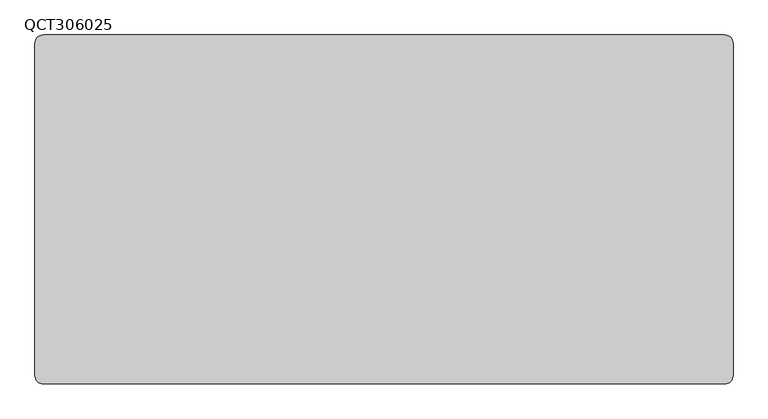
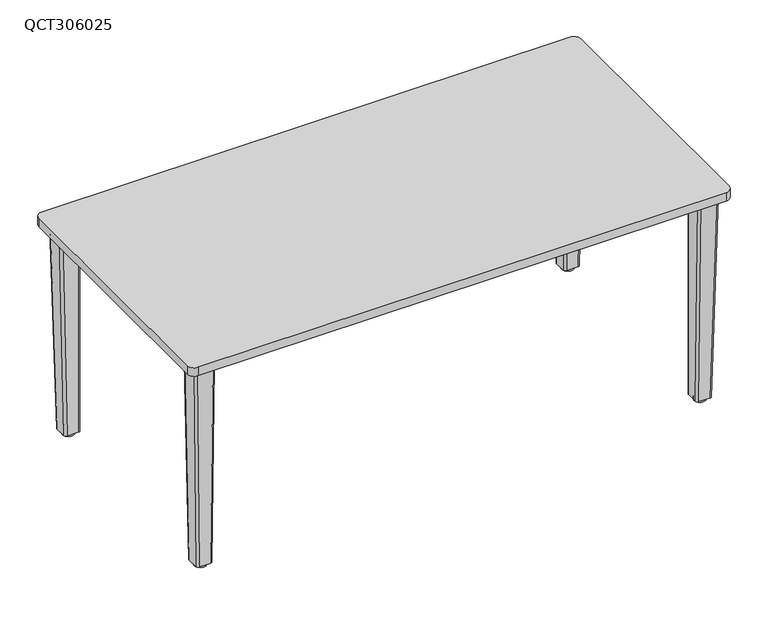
"""IFC4 building model written with IfcOpenShell, lengths in millimetres: furniture geometry, Leland-Quince-Table_Rectangle : QCT306025."""

from ifc_helpers import new_model, si_unit, point, frame, frame_2d, origin, origin_with_axes, place, context, project, spatial, polyline, circle_curve, trimmed, segment, composite_curve, outline, extrude, source, transform, mapped, element, save
from ifc_brep_helpers import plane_surface, cylinder_surface, extruded_surface, advanced_brep


def qct306025_694dcfb7(model_context):
    return source(origin(), model_context, "Body", "SolidModel", [
        advanced_brep(
        [(731.0299122, -299.2482078, 604.8487443), (686.5799122, -299.2482078, 604.8487443), (680.2299122, -305.5982078, 604.8487443), (680.2299122, -350.0482078, 604.8487443), (686.5799122, -356.3982078, 604.8487443), (731.0299122, -356.3982078, 604.8487443), (737.3799122, -350.0482078, 604.8487443), (737.3799122, -305.5982078, 604.8487443), (718.7392552, -299.2482078, 9.5377), (725.0892552, -305.5982078, 9.5377), (725.0892552, -337.7651364, 9.5377), (718.7392552, -344.1151364, 9.5377), (686.5799122, -344.1151364, 9.5377), (680.2299122, -337.7651364, 9.5377), (680.2299122, -305.5982078, 9.5377), (686.5799122, -299.2482078, 9.5377)],
        [
            (0, 1),
            (1, 2, circle_curve(frame((686.5799122, -305.5982078, 604.8487443), z_axis=(0.0, 0.0, 1.0), x_axis=(-1.0, 0.0, 0.0)), 6.35)),
            (2, 3),
            (3, 4, circle_curve(frame((686.5799122, -350.0482078, 604.8487443), z_axis=(0.0, 0.0, 1.0), x_axis=(-1.0, 0.0, 0.0)), 6.35)),
            (4, 5),
            (5, 6, circle_curve(frame((731.0299122, -350.0482078, 604.8487443), z_axis=(0.0, 0.0, 1.0), x_axis=(-1.0, 0.0, 0.0)), 6.35)),
            (6, 7),
            (7, 0, circle_curve(frame((731.0299122, -305.5982078, 604.8487443), z_axis=(0.0, 0.0, 1.0), x_axis=(-1.0, 0.0, 0.0)), 6.35)),
            (8, 9, circle_curve(frame((718.7392552, -305.5982078, 9.5377), z_axis=(0.0, 0.0, -1.0), x_axis=(-1.0, 0.0, 0.0)), 6.35)),
            (9, 10),
            (10, 11, circle_curve(frame((718.7392552, -337.7651364, 9.5377), z_axis=(0.0, 0.0, -1.0), x_axis=(-1.0, 0.0, 0.0)), 6.35)),
            (11, 12),
            (12, 13, circle_curve(frame((686.5799122, -337.7651364, 9.5377), z_axis=(0.0, 0.0, -1.0), x_axis=(-1.0, 0.0, 0.0)), 6.35)),
            (13, 14),
            (14, 15, circle_curve(frame((686.5799122, -305.5982078, 9.5377), z_axis=(0.0, 0.0, -1.0), x_axis=(-1.0, 0.0, 0.0)), 6.35)),
            (15, 8),
            (8, 0),
            (7, 9),
            (6, 10),
            (5, 11),
            (4, 12),
            (3, 13),
            (2, 14),
            (1, 15),
        ],
        [
            plane_surface(frame((708.8049122, -327.8232078, 604.8487443), z_axis=(0.0, 0.0, 1.0), x_axis=(1.0, 0.0, 0.0))),
            plane_surface(frame((702.6595837, -321.6816721, 9.5377), z_axis=(0.0, 0.0, -1.0), x_axis=(1.0, 0.0, 0.0))),
            extruded_surface(trimmed(circle_curve(frame((718.7392552, -305.5982078, 9.5377), z_axis=(0.0, 0.0, 1.0), x_axis=(-1.0, 0.0, 0.0)), 6.35), [point((725.0892552, -305.5982078, 9.5377))], [point((718.7392552, -299.2482078, 9.5377))], True, "CARTESIAN"), (12.29065700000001, 0.0, 595.3110443), 595.4379058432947),
            plane_surface(frame((725.0892552, -321.6816721, 9.5377), z_axis=(0.999786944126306, 0.0, -0.020641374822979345), x_axis=(0.0, 1.0, 0.0))),
            extruded_surface(trimmed(circle_curve(frame((718.7392552, -337.7651364, 9.5377), z_axis=(0.0, 0.0, 1.0), x_axis=(-1.0, 0.0, 0.0)), 6.35), [point((718.7392552, -344.1151364, 9.5377))], [point((725.0892552, -337.7651364, 9.5377))], True, "CARTESIAN"), (12.29065700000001, -12.283071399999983, 595.3110443), 595.5645838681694),
            plane_surface(frame((702.6595837, -344.1151364, 9.5377), z_axis=(0.0, -0.9997872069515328, -0.020628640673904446), x_axis=(1.0, 0.0, 0.0))),
            extruded_surface(trimmed(circle_curve(frame((686.5799122, -337.7651364, 9.5377), z_axis=(0.0, 0.0, 1.0), x_axis=(-1.0, 0.0, 0.0)), 6.35), [point((680.2299122, -337.7651364, 9.5377))], [point((686.5799122, -344.1151364, 9.5377))], True, "CARTESIAN"), (0.0, -12.283071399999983, 595.3110443), 595.4377493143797),
            plane_surface(frame((680.2299122, -321.6816721, 9.5377), z_axis=(-1.0, 0.0, 0.0), x_axis=(0.0, -1.0, 0.0))),
            cylinder_surface(frame((686.5799122, -305.5982078, 9.5377), z_axis=(0.0, 0.0, 1.0), x_axis=(-1.0, 0.0, 0.0)), 6.35),
            plane_surface(frame((702.6595837, -299.2482078, 9.5377), z_axis=(0.0, 1.0, 0.0), x_axis=(-1.0, 0.0, 0.0))),
        ],
        [
            (0, [[1, 2, 3, 4, 5, 6, 7, 8]]),
            (1, [[9, 10, 11, 12, 13, 14, 15, 16]]),
            (2, [[-9, 17, -8, 18]]),
            (3, [[-10, -18, -7, 19]]),
            (4, [[-11, -19, -6, 20]]),
            (5, [[-12, -20, -5, 21]]),
            (6, [[-13, -21, -4, 22]]),
            (7, [[-14, -22, -3, 23]]),
            (8, [[-15, -23, -2, 24]]),
            (9, [[-16, -24, -1, -17]]),
        ],
    ),
        advanced_brep(
        [(-731.0299122, -299.2482078, 604.8487443), (-737.3799122, -305.5982078, 604.8487443), (-737.3799122, -350.0482078, 604.8487443), (-731.0299122, -356.3982078, 604.8487443), (-686.5799122, -356.3982078, 604.8487443), (-680.2299122, -350.0482078, 604.8487443), (-680.2299122, -305.5982078, 604.8487443), (-686.5799122, -299.2482078, 604.8487443), (-718.7392552, -299.2482078, 9.5377), (-686.5799122, -299.2482078, 9.5377), (-680.2299122, -305.5982078, 9.5377), (-680.2299122, -337.7651364, 9.5377), (-686.5799122, -344.1151364, 9.5377), (-718.7392552, -344.1151364, 9.5377), (-725.0892552, -337.7651364, 9.5377), (-725.0892552, -305.5982078, 9.5377)],
        [
            (0, 1, circle_curve(frame((-731.0299122, -305.5982078, 604.8487443), z_axis=(0.0, 0.0, 1.0), x_axis=(1.0, 0.0, 0.0)), 6.35)),
            (1, 2),
            (2, 3, circle_curve(frame((-731.0299122, -350.0482078, 604.8487443), z_axis=(0.0, 0.0, 1.0), x_axis=(1.0, 0.0, 0.0)), 6.35)),
            (3, 4),
            (4, 5, circle_curve(frame((-686.5799122, -350.0482078, 604.8487443), z_axis=(0.0, 0.0, 1.0), x_axis=(1.0, 0.0, 0.0)), 6.35)),
            (5, 6),
            (6, 7, circle_curve(frame((-686.5799122, -305.5982078, 604.8487443), z_axis=(0.0, 0.0, 1.0), x_axis=(0.0, 1.0, 0.0)), 6.35)),
            (7, 0),
            (8, 9),
            (9, 10, circle_curve(frame((-686.5799122, -305.5982078, 9.5377), z_axis=(0.0, 0.0, -1.0), x_axis=(0.0, 1.0, 0.0)), 6.35)),
            (10, 11),
            (11, 12, circle_curve(frame((-686.5799122, -337.7651364, 9.5377), z_axis=(0.0, 0.0, -1.0), x_axis=(1.0, 0.0, 0.0)), 6.35)),
            (12, 13),
            (13, 14, circle_curve(frame((-718.7392552, -337.7651364, 9.5377), z_axis=(0.0, 0.0, -1.0), x_axis=(1.0, 0.0, 0.0)), 6.35)),
            (14, 15),
            (15, 8, circle_curve(frame((-718.7392552, -305.5982078, 9.5377), z_axis=(0.0, 0.0, -1.0), x_axis=(1.0, 0.0, 0.0)), 6.35)),
            (15, 1),
            (0, 8),
            (14, 2),
            (13, 3),
            (12, 4),
            (11, 5),
            (10, 6),
            (9, 7),
        ],
        [
            plane_surface(frame((-708.8049122, -327.8232078, 604.8487443), z_axis=(0.0, 0.0, 1.0), x_axis=(1.0, 0.0, 0.0))),
            plane_surface(frame((-702.6595837, -321.6816721, 9.5377), z_axis=(0.0, 0.0, -1.0), x_axis=(1.0, 0.0, 0.0))),
            extruded_surface(trimmed(circle_curve(frame((-718.7392552, -305.5982078, 9.5377), z_axis=(0.0, 0.0, 1.0), x_axis=(1.0, 0.0, 0.0)), 6.35), [point((-718.7392552, -299.2482078, 9.5377))], [point((-725.0892552, -305.5982078, 9.5377))], True, "CARTESIAN"), (-12.29065700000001, 0.0, 595.3110443), 595.4379058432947),
            plane_surface(frame((-725.0892552, -321.6816721, 9.5377), z_axis=(-0.999786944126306, 0.0, -0.020641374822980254), x_axis=(0.0, -1.0, 0.0))),
            extruded_surface(trimmed(circle_curve(frame((-718.7392552, -337.7651364, 9.5377), z_axis=(0.0, 0.0, 1.0), x_axis=(1.0, 0.0, 0.0)), 6.35), [point((-725.0892552, -337.7651364, 9.5377))], [point((-718.7392552, -344.1151364, 9.5377))], True, "CARTESIAN"), (-12.29065700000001, -12.283071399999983, 595.3110443), 595.5645838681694),
            plane_surface(frame((-702.6595837, -344.1151364, 9.5377), z_axis=(0.0, -0.9997872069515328, -0.020628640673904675), x_axis=(1.0, 0.0, 0.0))),
            extruded_surface(trimmed(circle_curve(frame((-686.5799122, -337.7651364, 9.5377), z_axis=(0.0, 0.0, 1.0), x_axis=(1.0, 0.0, 0.0)), 6.35), [point((-686.5799122, -344.1151364, 9.5377))], [point((-680.2299122, -337.7651364, 9.5377))], True, "CARTESIAN"), (0.0, -12.283071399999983, 595.3110443), 595.4377493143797),
            plane_surface(frame((-680.2299122, -321.6816721, 9.5377), z_axis=(1.0, 0.0, 0.0), x_axis=(0.0, 1.0, 0.0))),
            cylinder_surface(frame((-686.5799122, -305.5982078, 9.5377), z_axis=(0.0, 0.0, 1.0), x_axis=(0.0, 1.0, 0.0)), 6.35),
            plane_surface(frame((-702.6595837, -299.2482078, 9.5377), z_axis=(0.0, 1.0, 0.0), x_axis=(-1.0, 0.0, 0.0))),
        ],
        [
            (0, [[1, 2, 3, 4, 5, 6, 7, 8]]),
            (1, [[9, 10, 11, 12, 13, 14, 15, 16]]),
            (2, [[-16, 17, -1, 18]]),
            (3, [[-15, 19, -2, -17]]),
            (4, [[-14, 20, -3, -19]]),
            (5, [[-13, 21, -4, -20]]),
            (6, [[-12, 22, -5, -21]]),
            (7, [[-11, 23, -6, -22]]),
            (8, [[-10, 24, -7, -23]]),
            (9, [[-9, -18, -8, -24]]),
        ],
    ),
        advanced_brep(
        [(731.0299122, 299.2482078, 604.8487443), (737.3799122, 305.5982078, 604.8487443), (737.3799122, 350.0482078, 604.8487443), (731.0299122, 356.3982078, 604.8487443), (686.5799122, 356.3982078, 604.8487443), (680.2299122, 350.0482078, 604.8487443), (680.2299122, 305.5982078, 604.8487443), (686.5799122, 299.2482078, 604.8487443), (718.7392552, 299.2482078, 9.5377), (686.5799122, 299.2482078, 9.5377), (680.2299122, 305.5982078, 9.5377), (680.2299122, 337.7651364, 9.5377), (686.5799122, 344.1151364, 9.5377), (718.7392552, 344.1151364, 9.5377), (725.0892552, 337.7651364, 9.5377), (725.0892552, 305.5982078, 9.5377)],
        [
            (0, 1, circle_curve(frame((731.0299122, 305.5982078, 604.8487443), z_axis=(0.0, 0.0, 1.0), x_axis=(-1.0, 0.0, 0.0)), 6.35)),
            (1, 2),
            (2, 3, circle_curve(frame((731.0299122, 350.0482078, 604.8487443), z_axis=(0.0, 0.0, 1.0), x_axis=(-1.0, 0.0, 0.0)), 6.35)),
            (3, 4),
            (4, 5, circle_curve(frame((686.5799122, 350.0482078, 604.8487443), z_axis=(0.0, 0.0, 1.0), x_axis=(-1.0, 0.0, 0.0)), 6.35)),
            (5, 6),
            (6, 7, circle_curve(frame((686.5799122, 305.5982078, 604.8487443), z_axis=(0.0, 0.0, 1.0), x_axis=(0.0, -1.0, 0.0)), 6.35)),
            (7, 0),
            (8, 9),
            (9, 10, circle_curve(frame((686.5799122, 305.5982078, 9.5377), z_axis=(0.0, 0.0, -1.0), x_axis=(0.0, -1.0, 0.0)), 6.35)),
            (10, 11),
            (11, 12, circle_curve(frame((686.5799122, 337.7651364, 9.5377), z_axis=(0.0, 0.0, -1.0), x_axis=(-1.0, 0.0, 0.0)), 6.35)),
            (12, 13),
            (13, 14, circle_curve(frame((718.7392552, 337.7651364, 9.5377), z_axis=(0.0, 0.0, -1.0), x_axis=(-1.0, 0.0, 0.0)), 6.35)),
            (14, 15),
            (15, 8, circle_curve(frame((718.7392552, 305.5982078, 9.5377), z_axis=(0.0, 0.0, -1.0), x_axis=(-1.0, 0.0, 0.0)), 6.35)),
            (15, 1),
            (0, 8),
            (14, 2),
            (13, 3),
            (12, 4),
            (11, 5),
            (10, 6),
            (9, 7),
        ],
        [
            plane_surface(frame((708.8049122, 327.8232078, 604.8487443), z_axis=(0.0, 0.0, 1.0), x_axis=(-1.0, 0.0, 0.0))),
            plane_surface(frame((702.6595837, 321.6816721, 9.5377), z_axis=(0.0, 0.0, -1.0), x_axis=(-1.0, 0.0, 0.0))),
            extruded_surface(trimmed(circle_curve(frame((718.7392552, 305.5982078, 9.5377), z_axis=(0.0, 0.0, 1.0), x_axis=(-1.0, 0.0, 0.0)), 6.35), [point((718.7392552, 299.2482078, 9.5377))], [point((725.0892552, 305.5982078, 9.5377))], True, "CARTESIAN"), (12.29065700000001, 0.0, 595.3110443), 595.4379058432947),
            plane_surface(frame((725.0892552, 321.6816721, 9.5377), z_axis=(0.999786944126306, 0.0, -0.02064137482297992), x_axis=(0.0, 1.0, 0.0))),
            extruded_surface(trimmed(circle_curve(frame((718.7392552, 337.7651364, 9.5377), z_axis=(0.0, 0.0, 1.0), x_axis=(-1.0, 0.0, 0.0)), 6.35), [point((725.0892552, 337.7651364, 9.5377))], [point((718.7392552, 344.1151364, 9.5377))], True, "CARTESIAN"), (12.29065700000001, 12.283071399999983, 595.3110443), 595.5645838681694),
            plane_surface(frame((702.6595837, 344.1151364, 9.5377), z_axis=(0.0, 0.9997872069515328, -0.020628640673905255), x_axis=(-1.0, 0.0, 0.0))),
            extruded_surface(trimmed(circle_curve(frame((686.5799122, 337.7651364, 9.5377), z_axis=(0.0, 0.0, 1.0), x_axis=(-1.0, 0.0, 0.0)), 6.35), [point((686.5799122, 344.1151364, 9.5377))], [point((680.2299122, 337.7651364, 9.5377))], True, "CARTESIAN"), (0.0, 12.283071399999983, 595.3110443), 595.4377493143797),
            plane_surface(frame((680.2299122, 321.6816721, 9.5377), z_axis=(-1.0, 0.0, 0.0), x_axis=(0.0, -1.0, 0.0))),
            cylinder_surface(frame((686.5799122, 305.5982078, 9.5377), z_axis=(0.0, 0.0, 1.0), x_axis=(0.0, -1.0, 0.0)), 6.35),
            plane_surface(frame((702.6595837, 299.2482078, 9.5377), z_axis=(0.0, -1.0, 0.0), x_axis=(1.0, 0.0, 0.0))),
        ],
        [
            (0, [[1, 2, 3, 4, 5, 6, 7, 8]]),
            (1, [[9, 10, 11, 12, 13, 14, 15, 16]]),
            (2, [[-16, 17, -1, 18]]),
            (3, [[-15, 19, -2, -17]]),
            (4, [[-14, 20, -3, -19]]),
            (5, [[-13, 21, -4, -20]]),
            (6, [[-12, 22, -5, -21]]),
            (7, [[-11, 23, -6, -22]]),
            (8, [[-10, 24, -7, -23]]),
            (9, [[-9, -18, -8, -24]]),
        ],
    ),
        extrude(outline(composite_curve([segment(trimmed(circle_curve(frame_2d((-702.6595837, 321.6816721)), 16.66875), [point((-719.3283337, 321.6816721))], [point((-685.9908337, 321.6816721))], False, "CARTESIAN"), True, "CONTINUOUS"), segment(trimmed(circle_curve(frame_2d((-702.6595837, 321.6816721)), 16.66875), [point((-685.9908337, 321.6816721))], [point((-719.3283337, 321.6816721))], False, "CARTESIAN"), True, "CONTINUOUS")], self_intersect=False)), origin_with_axes(), (0.0, 0.0, 1.0), 9.5377),
        extrude(outline(composite_curve([segment(trimmed(circle_curve(frame_2d((702.6595837, 321.6816721)), 16.66875), [point((685.9908337, 321.6816721))], [point((719.3283337, 321.6816721))], False, "CARTESIAN"), True, "CONTINUOUS"), segment(trimmed(circle_curve(frame_2d((702.6595837, 321.6816721)), 16.66875), [point((719.3283337, 321.6816721))], [point((685.9908337, 321.6816721))], False, "CARTESIAN"), True, "CONTINUOUS")], self_intersect=False)), origin_with_axes(), (0.0, 0.0, 1.0), 9.5377),
        extrude(outline(composite_curve([segment(trimmed(circle_curve(frame_2d((-702.6595837, -321.6816721)), 16.66875), [point((-719.3283337, -321.6816721))], [point((-685.9908337, -321.6816721))], False, "CARTESIAN"), True, "CONTINUOUS"), segment(trimmed(circle_curve(frame_2d((-702.6595837, -321.6816721)), 16.66875), [point((-685.9908337, -321.6816721))], [point((-719.3283337, -321.6816721))], False, "CARTESIAN"), True, "CONTINUOUS")], self_intersect=False)), origin_with_axes(), (0.0, 0.0, 1.0), 9.5377),
        extrude(outline(composite_curve([segment(trimmed(circle_curve(frame_2d((702.6595837, -321.6816721)), 16.66875), [point((685.9908337, -321.6816721))], [point((719.3283337, -321.6816721))], False, "CARTESIAN"), True, "CONTINUOUS"), segment(trimmed(circle_curve(frame_2d((702.6595837, -321.6816721)), 16.66875), [point((719.3283337, -321.6816721))], [point((685.9908337, -321.6816721))], False, "CARTESIAN"), True, "CONTINUOUS")], self_intersect=False)), origin_with_axes(), (0.0, 0.0, 1.0), 9.5377),
        extrude(outline(polyline([(-632.61875, 353.21875), (-632.61875, 251.61875), (-734.21875, 251.61875), (-734.21875, 353.21875), (-632.61875, 353.21875)])), frame((0.0, 0.0, 604.8487443), z_axis=(0.0, 0.0, 1.0), x_axis=(1.0, 0.0, 0.0)), (0.0, 0.0, 1.0), 4.7625),
        extrude(outline(polyline([(632.61875, 353.21875), (734.21875, 353.21875), (734.21875, 251.61875), (632.61875, 251.61875), (632.61875, 353.21875)])), frame((0.0, 0.0, 604.8487443), z_axis=(0.0, 0.0, 1.0), x_axis=(1.0, 0.0, 0.0)), (0.0, 0.0, 1.0), 4.7625),
        extrude(outline(polyline([(-632.61875, -353.21875), (-734.21875, -353.21875), (-734.21875, -251.61875), (-632.61875, -251.61875), (-632.61875, -353.21875)])), frame((0.0, 0.0, 604.8487443), z_axis=(0.0, 0.0, 1.0), x_axis=(1.0, 0.0, 0.0)), (0.0, 0.0, 1.0), 4.7625),
        extrude(outline(polyline([(632.61875, -353.21875), (632.61875, -251.61875), (734.21875, -251.61875), (734.21875, -353.21875), (632.61875, -353.21875)])), frame((0.0, 0.0, 604.8487443), z_axis=(0.0, 0.0, 1.0), x_axis=(1.0, 0.0, 0.0)), (0.0, 0.0, 1.0), 4.7625),
        advanced_brep(
        [(-731.0299122, 299.2482078, 604.8487443), (-686.5799122, 299.2482078, 604.8487443), (-680.2299122, 305.5982078, 604.8487443), (-680.2299122, 350.0482078, 604.8487443), (-686.5799122, 356.3982078, 604.8487443), (-731.0299122, 356.3982078, 604.8487443), (-737.3799122, 350.0482078, 604.8487443), (-737.3799122, 305.5982078, 604.8487443), (-718.7392552, 299.2482078, 9.5377), (-725.0892552, 305.5982078, 9.5377), (-725.0892552, 337.7651364, 9.5377), (-718.7392552, 344.1151364, 9.5377), (-686.5799122, 344.1151364, 9.5377), (-680.2299122, 337.7651364, 9.5377), (-680.2299122, 305.5982078, 9.5377), (-686.5799122, 299.2482078, 9.5377)],
        [
            (0, 1),
            (1, 2, circle_curve(frame((-686.5799122, 305.5982078, 604.8487443), z_axis=(0.0, 0.0, 1.0), x_axis=(1.0, 0.0, 0.0)), 6.35)),
            (2, 3),
            (3, 4, circle_curve(frame((-686.5799122, 350.0482078, 604.8487443), z_axis=(0.0, 0.0, 1.0), x_axis=(1.0, 0.0, 0.0)), 6.35)),
            (4, 5),
            (5, 6, circle_curve(frame((-731.0299122, 350.0482078, 604.8487443), z_axis=(0.0, 0.0, 1.0), x_axis=(1.0, 0.0, 0.0)), 6.35)),
            (6, 7),
            (7, 0, circle_curve(frame((-731.0299122, 305.5982078, 604.8487443), z_axis=(0.0, 0.0, 1.0), x_axis=(1.0, 0.0, 0.0)), 6.35)),
            (8, 9, circle_curve(frame((-718.7392552, 305.5982078, 9.5377), z_axis=(0.0, 0.0, -1.0), x_axis=(1.0, 0.0, 0.0)), 6.35)),
            (9, 10),
            (10, 11, circle_curve(frame((-718.7392552, 337.7651364, 9.5377), z_axis=(0.0, 0.0, -1.0), x_axis=(1.0, 0.0, 0.0)), 6.35)),
            (11, 12),
            (12, 13, circle_curve(frame((-686.5799122, 337.7651364, 9.5377), z_axis=(0.0, 0.0, -1.0), x_axis=(1.0, 0.0, 0.0)), 6.35)),
            (13, 14),
            (14, 15, circle_curve(frame((-686.5799122, 305.5982078, 9.5377), z_axis=(0.0, 0.0, -1.0), x_axis=(1.0, 0.0, 0.0)), 6.35)),
            (15, 8),
            (8, 0),
            (7, 9),
            (6, 10),
            (5, 11),
            (4, 12),
            (3, 13),
            (2, 14),
            (1, 15),
        ],
        [
            plane_surface(frame((-708.8049122, 327.8232078, 604.8487443), z_axis=(0.0, 0.0, 1.0), x_axis=(-1.0, 0.0, 0.0))),
            plane_surface(frame((-702.6595837, 321.6816721, 9.5377), z_axis=(0.0, 0.0, -1.0), x_axis=(-1.0, 0.0, 0.0))),
            extruded_surface(trimmed(circle_curve(frame((-718.7392552, 305.5982078, 9.5377), z_axis=(0.0, 0.0, 1.0), x_axis=(1.0, 0.0, 0.0)), 6.35), [point((-725.0892552, 305.5982078, 9.5377))], [point((-718.7392552, 299.2482078, 9.5377))], True, "CARTESIAN"), (-12.29065700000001, 0.0, 595.3110443), 595.4379058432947),
            plane_surface(frame((-725.0892552, 321.6816721, 9.5377), z_axis=(-0.999786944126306, 0.0, -0.020641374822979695), x_axis=(0.0, -1.0, 0.0))),
            extruded_surface(trimmed(circle_curve(frame((-718.7392552, 337.7651364, 9.5377), z_axis=(0.0, 0.0, 1.0), x_axis=(1.0, 0.0, 0.0)), 6.35), [point((-718.7392552, 344.1151364, 9.5377))], [point((-725.0892552, 337.7651364, 9.5377))], True, "CARTESIAN"), (-12.29065700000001, 12.283071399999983, 595.3110443), 595.5645838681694),
            plane_surface(frame((-702.6595837, 344.1151364, 9.5377), z_axis=(0.0, 0.9997872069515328, -0.020628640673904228), x_axis=(-1.0, 0.0, 0.0))),
            extruded_surface(trimmed(circle_curve(frame((-686.5799122, 337.7651364, 9.5377), z_axis=(0.0, 0.0, 1.0), x_axis=(1.0, 0.0, 0.0)), 6.35), [point((-680.2299122, 337.7651364, 9.5377))], [point((-686.5799122, 344.1151364, 9.5377))], True, "CARTESIAN"), (0.0, 12.283071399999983, 595.3110443), 595.4377493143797),
            plane_surface(frame((-680.2299122, 321.6816721, 9.5377), z_axis=(1.0, 0.0, 0.0), x_axis=(0.0, 1.0, 0.0))),
            cylinder_surface(frame((-686.5799122, 305.5982078, 9.5377), z_axis=(0.0, 0.0, 1.0), x_axis=(1.0, 0.0, 0.0)), 6.35),
            plane_surface(frame((-702.6595837, 299.2482078, 9.5377), z_axis=(0.0, -1.0, 0.0), x_axis=(1.0, 0.0, 0.0))),
        ],
        [
            (0, [[1, 2, 3, 4, 5, 6, 7, 8]]),
            (1, [[9, 10, 11, 12, 13, 14, 15, 16]]),
            (2, [[-9, 17, -8, 18]]),
            (3, [[-10, -18, -7, 19]]),
            (4, [[-11, -19, -6, 20]]),
            (5, [[-12, -20, -5, 21]]),
            (6, [[-13, -21, -4, 22]]),
            (7, [[-14, -22, -3, 23]]),
            (8, [[-15, -23, -2, 24]]),
            (9, [[-16, -24, -1, -17]]),
        ],
    ),
        extrude(outline(composite_curve([segment(trimmed(circle_curve(frame_2d((742.95, 361.95)), 19.05), [point((742.95, 381.0))], [point((762.0, 361.95))], False, "CARTESIAN"), True, "CONTINUOUS"), segment(polyline([(762.0, 361.95), (762.0, -361.95)]), True, "CONTINUOUS"), segment(trimmed(circle_curve(frame_2d((742.95, -361.95)), 19.05), [point((762.0, -361.95))], [point((742.95, -381.0))], False, "CARTESIAN"), True, "CONTINUOUS"), segment(polyline([(742.95, -381.0), (-742.95, -381.0)]), True, "CONTINUOUS"), segment(trimmed(circle_curve(frame_2d((-742.95, -361.95)), 19.05), [point((-742.95, -381.0))], [point((-762.0, -361.95))], False, "CARTESIAN"), True, "CONTINUOUS"), segment(polyline([(-762.0, -361.95), (-762.0, 361.95)]), True, "CONTINUOUS"), segment(trimmed(circle_curve(frame_2d((-742.95, 361.95)), 19.05), [point((-762.0, 361.95))], [point((-742.95, 381.0))], False, "CARTESIAN"), True, "CONTINUOUS"), segment(polyline([(-742.95, 381.0), (742.95, 381.0)]), True, "CONTINUOUS")], self_intersect=False)), frame((0.0, 0.0, 609.6112443), z_axis=(0.0, 0.0, 1.0), x_axis=(1.0, 0.0, 0.0)), (0.0, 0.0, 1.0), 25.3887557),
    ])


if __name__ == "__main__":
    model = new_model("IFC4")
    model_context = context("Model", 3, world=origin())
    ifc_project = project(units=[si_unit("LENGTHUNIT", "METRE", prefix="MILLI")], contexts=[model_context])
    site = spatial("IfcSite", under=ifc_project)
    building = spatial("IfcBuilding", under=site)
    placement = place(None, origin())
    qct306025_shape = qct306025_694dcfb7(model_context)
    element("IfcFurniture", 1, ObjectType="Leland-Quince-Table_Rectangle : QCT306025", at=placement, inside=building, context=model_context, shape_type="MappedRepresentation", body=[
        mapped(qct306025_shape, transform((0.0, 0.0, 0.0), x_axis=(1.0, 0.0, 0.0), y_axis=(0.0, 1.0, 0.0), z_axis=(0.0, 0.0, 1.0))),
    ])
    save(model, "model.ifc")
